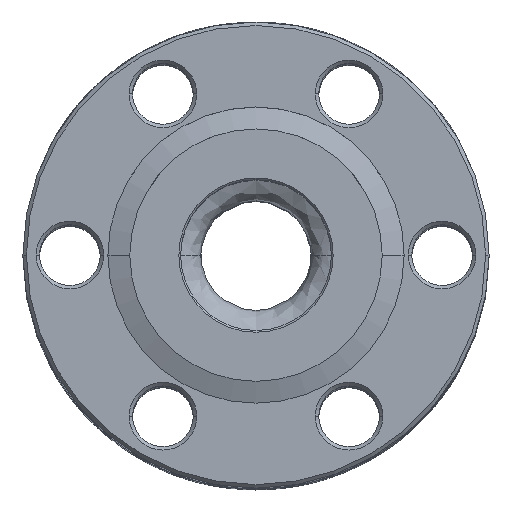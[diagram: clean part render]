
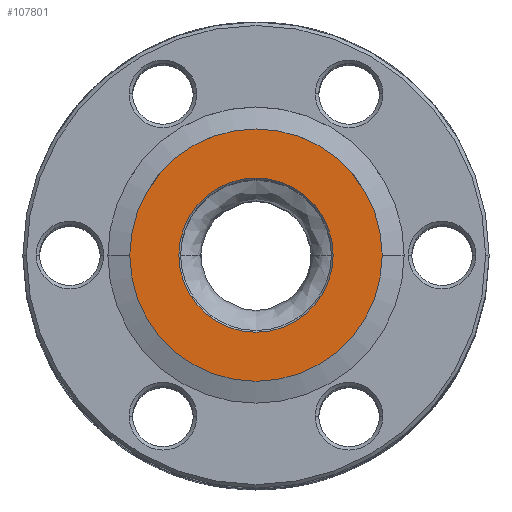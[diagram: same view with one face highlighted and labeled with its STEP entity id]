
A CAD part, top view. The second image highlights one B-rep face of the part: STEP entity #107801.
In plain terms, the highlighted planar face has unit normal (0, 0, 1).
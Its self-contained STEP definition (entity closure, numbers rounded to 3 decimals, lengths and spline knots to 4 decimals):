
#25886 = AXIS2_PLACEMENT_3D ( 'NONE', #100669, #100671, #100673 ) ;
#28455 = CARTESIAN_POINT ( 'NONE',  ( 0., 0., -0.127 ) ) ;
#28458 = DIRECTION ( 'NONE',  ( 0., 0., 1. ) ) ;
#28461 = DIRECTION ( 'NONE',  ( 1., 0., 0. ) ) ;
#30257 = CARTESIAN_POINT ( 'NONE',  ( -0.5588, 0., -0.127 ) ) ;
#30289 = CARTESIAN_POINT ( 'NONE',  ( 0.5588, 0., -0.127 ) ) ;
#30291 = CARTESIAN_POINT ( 'NONE',  ( -0.9144, 0., -0.127 ) ) ;
#30299 = CARTESIAN_POINT ( 'NONE',  ( 0.9144, 0., -0.127 ) ) ;
#33764 = CIRCLE ( 'NONE', #25886, 0.9144 ) ;
#34043 = CIRCLE ( 'NONE', #78819, 0.5588 ) ;
#34391 = CIRCLE ( 'NONE', #78853, 0.9144 ) ;
#34608 = CIRCLE ( 'NONE', #78882, 0.5588 ) ;
#58757 = EDGE_LOOP ( 'NONE', ( #83322, #83582 ) ) ;
#59035 = EDGE_LOOP ( 'NONE', ( #83359, #83785 ) ) ;
#60631 = EDGE_CURVE ( 'NONE', #71985, #71986, #33764, .T. ) ;
#61042 = EDGE_CURVE ( 'NONE', #71977, #71960, #34043, .T. ) ;
#63773 = EDGE_CURVE ( 'NONE', #71986, #71985, #34391, .T. ) ;
#64227 = EDGE_CURVE ( 'NONE', #71960, #71977, #34608, .T. ) ;
#71960 = VERTEX_POINT ( 'NONE', #30257 ) ;
#71977 = VERTEX_POINT ( 'NONE', #30289 ) ;
#71985 = VERTEX_POINT ( 'NONE', #30291 ) ;
#71986 = VERTEX_POINT ( 'NONE', #30299 ) ;
#73719 = CARTESIAN_POINT ( 'NONE',  ( 0., 0., -0.127 ) ) ;
#73720 = PLANE ( 'NONE',  #79248 ) ;
#73725 = DIRECTION ( 'NONE',  ( 0., 0., 1. ) ) ;
#73726 = DIRECTION ( 'NONE',  ( 1., 0., 0. ) ) ;
#78442 = CARTESIAN_POINT ( 'NONE',  ( 0., 0., -0.127 ) ) ;
#78443 = DIRECTION ( 'NONE',  ( 0., 0., 1. ) ) ;
#78444 = DIRECTION ( 'NONE',  ( 1., 0., 0. ) ) ;
#78819 = AXIS2_PLACEMENT_3D ( 'NONE', #78442, #78443, #78444 ) ;
#78853 = AXIS2_PLACEMENT_3D ( 'NONE', #88179, #88181, #88183 ) ;
#78882 = AXIS2_PLACEMENT_3D ( 'NONE', #28455, #28458, #28461 ) ;
#79248 = AXIS2_PLACEMENT_3D ( 'NONE', #73719, #73725, #73726 ) ;
#83322 = ORIENTED_EDGE ( 'NONE', *, *, #63773, .T. ) ;
#83359 = ORIENTED_EDGE ( 'NONE', *, *, #61042, .F. ) ;
#83582 = ORIENTED_EDGE ( 'NONE', *, *, #60631, .T. ) ;
#83785 = ORIENTED_EDGE ( 'NONE', *, *, #64227, .F. ) ;
#88179 = CARTESIAN_POINT ( 'NONE',  ( 0., 0., -0.127 ) ) ;
#88181 = DIRECTION ( 'NONE',  ( 0., 0., 1. ) ) ;
#88183 = DIRECTION ( 'NONE',  ( 1., 0., 0. ) ) ;
#100669 = CARTESIAN_POINT ( 'NONE',  ( 0., 0., -0.127 ) ) ;
#100671 = DIRECTION ( 'NONE',  ( 0., 0., 1. ) ) ;
#100673 = DIRECTION ( 'NONE',  ( 1., 0., 0. ) ) ;
#107801 = ADVANCED_FACE ( 'NONE', ( #114919, #114927 ), #73720, .T. ) ;
#114919 = FACE_BOUND ( 'NONE', #59035, .T. ) ;
#114927 = FACE_OUTER_BOUND ( 'NONE', #58757, .T. ) ;
